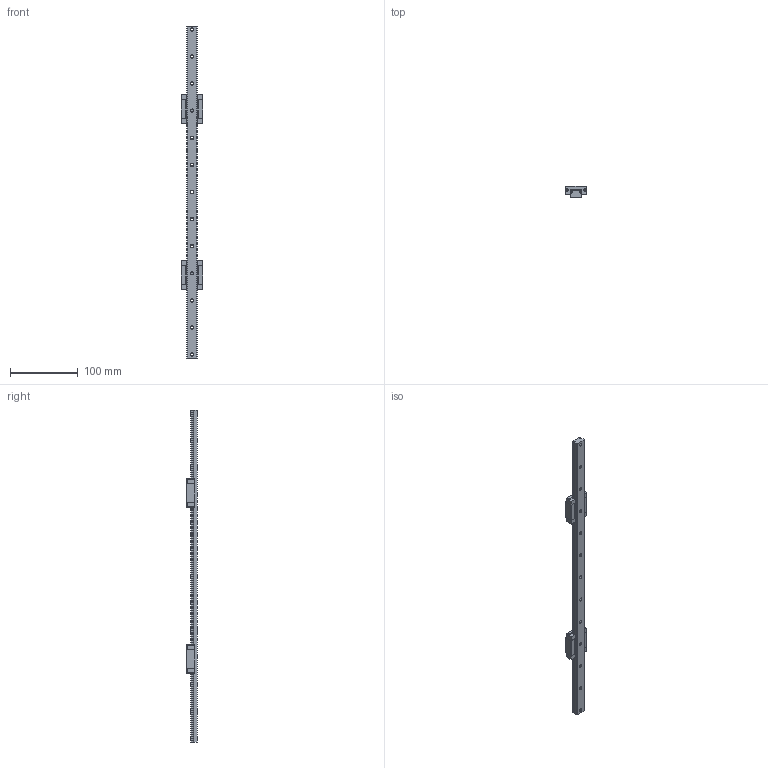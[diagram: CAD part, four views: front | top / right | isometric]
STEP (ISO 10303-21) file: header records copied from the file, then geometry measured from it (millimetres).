
FILE_DESCRIPTION( ( 'STEP AP203' ), ' ' );
FILE_NAME( 'p:/temp/worker_22/1136416_1136420/app_40_02018020511400878702668063ca5d5_000000_00_00_000000/format_0/SSE2B16-510-MC-LLC-RLC-WC.stp', '2018-02-05T10:40:10', ( '' ), ( '' ), ' ', 'PARTsolutions', ' ' );
FILE_SCHEMA( ( 'CONFIG_CONTROL_DESIGN' ) );
Length unit declared in the file: millimetre
Products named in the file (3): SSE2B16-510-MC-LLC-RLC-WC; _SSE2B16-510-MC-LLC-RLC_r; _SSEB16_b
Assembly tree (3 placements, depth 2):
  SSE2B16-510-MC-LLC-RLC-WC
    _SSE2B16-510-MC-LLC-RLC_r
    _SSEB16_b  x2
Bounding box: 32 x 16 x 490 mm (x, y, z)
Volume: 87937.2 mm3; surface area: 39114.7 mm2
Topology: 3 solids, 3 shells, 565 faces, 1611 edges, 1064 vertices
Faces by surface type: plane 410, cylinder 113, cone 42
Full cylindrical faces by diameter (mm): 2.459 x8, 3 x8, 4.134 x13
Entity records: 9896 total; most frequent: CARTESIAN_POINT 1717, ORIENTED_EDGE 1644, DIRECTION 1620, EDGE_CURVE 822, LINE 662, VECTOR 662, VERTEX_POINT 576, AXIS2_PLACEMENT_3D 479
